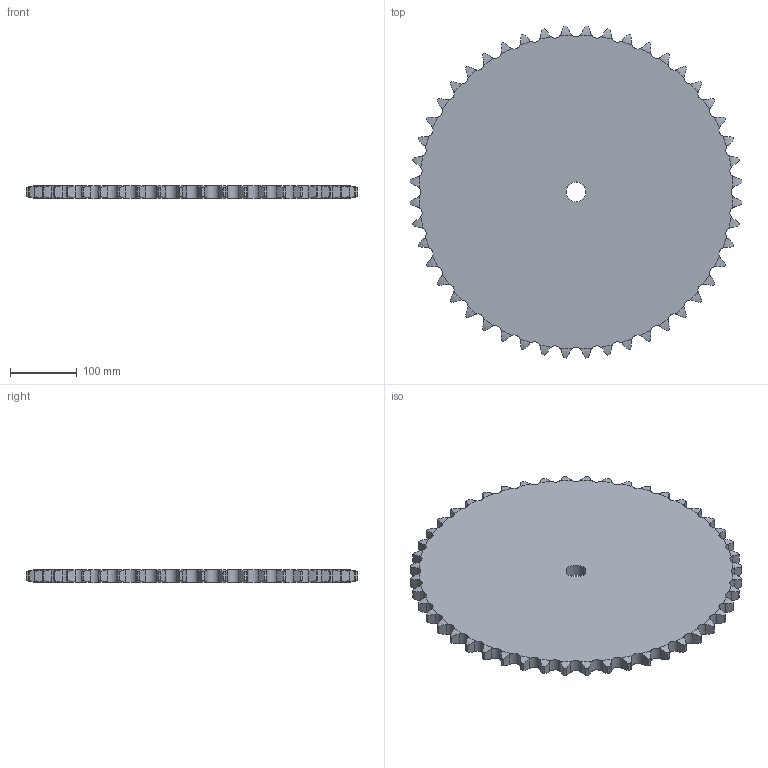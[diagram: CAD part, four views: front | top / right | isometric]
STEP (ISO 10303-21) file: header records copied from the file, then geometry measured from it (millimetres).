
FILE_DESCRIPTION((''),'2;1');
FILE_NAME('500-601-0048_PRT','2021-02-12T',('Brieden'),('Brieden'),'PRO/ENGINEER BY PARAMETRIC TECHNOLOGY CORPORATION, 2010160','PRO/ENGINEER BY PARAMETRIC TECHNOLOGY CORPORATION, 2010160','');
FILE_SCHEMA(('AUTOMOTIVE_DESIGN { 1 0 10303 214 1 1 1 1 }'));
Length unit declared in the file: millimetre
Products named in the file (1): 500-601-0048_PRT
Bounding box: 498.39 x 498.39 x 18.5 mm (x, y, z)
Volume: 3315788.3 mm3; surface area: 401489.6 mm2
Topology: 1 solids, 1 shells, 292 faces, 870 edges, 580 vertices
Faces by surface type: cylinder 194, torus 96, plane 2
Entity records: 14714 total; most frequent: CARTESIAN_POINT 4657, ORIENTED_EDGE 1740, DIRECTION 1362, PRESENTATION_STYLE_ASSIGNMENT 871, STYLED_ITEM 871, CURVE_STYLE 870, EDGE_CURVE 870, AXIS2_PLACEMENT_3D 584
